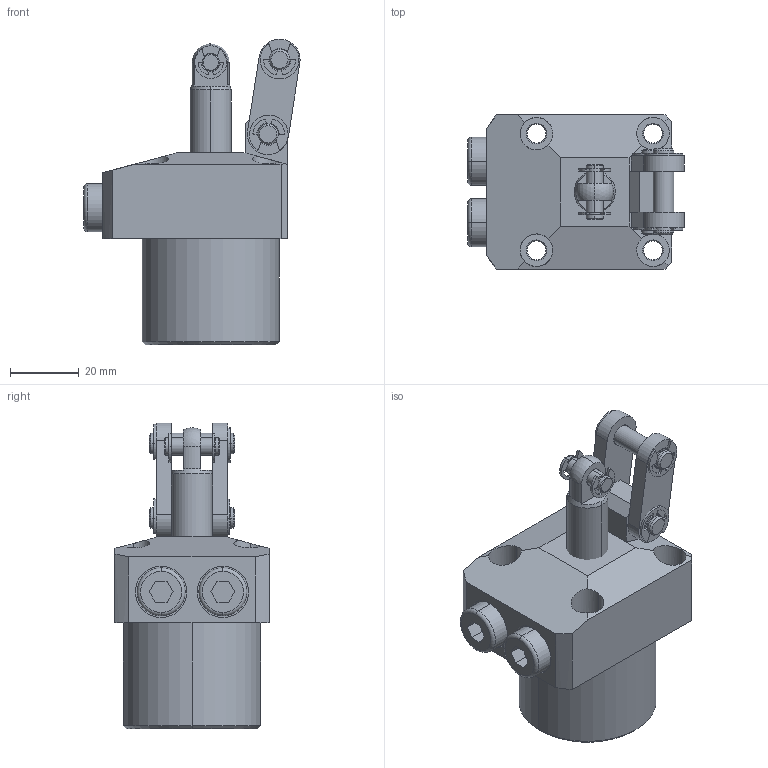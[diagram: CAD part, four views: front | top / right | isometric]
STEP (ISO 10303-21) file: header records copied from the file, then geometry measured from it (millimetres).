
FILE_DESCRIPTION (( 'STEP AP214' ), '1' );
FILE_NAME ('4171 221 C.STEP', '2017-10-17T08:33:12', ( '' ), ( '' ), 'SwSTEP 2.0', 'SolidWorks 2015', '' );
FILE_SCHEMA (( 'AUTOMOTIVE_DESIGN' ));
Length unit declared in the file: millimetre
Products named in the file (8): (type e)_is_IS 3075(Part3) - 5; (type e)_is_IS 3075(Part3) - 4; PLATE; PIN1; PIN; PROD; BODY_4171 221 C; 4171 221 C
Assembly tree (13 placements, depth 2):
  4171 221 C
    BODY_4171 221 C
    PROD
    PIN  x2
    PIN1
    PLATE  x2
    (type e)_is_IS 3075(Part3) - 4  x2
    (type e)_is_IS 3075(Part3) - 5  x4
Bounding box: 63.08 x 45 x 89.24 mm (x, y, z)
Volume: 98270.9 mm3; surface area: 23419.7 mm2
Topology: 13 solids, 13 shells, 403 faces, 1001 edges, 637 vertices
Faces by surface type: cylinder 198, plane 131, cone 68, torus 4, sphere 2
Entity records: 8270 total; most frequent: CARTESIAN_POINT 1551, DIRECTION 1426, ORIENTED_EDGE 1264, EDGE_CURVE 632, AXIS2_PLACEMENT_3D 556, VERTEX_POINT 401, LINE 314, VECTOR 314
